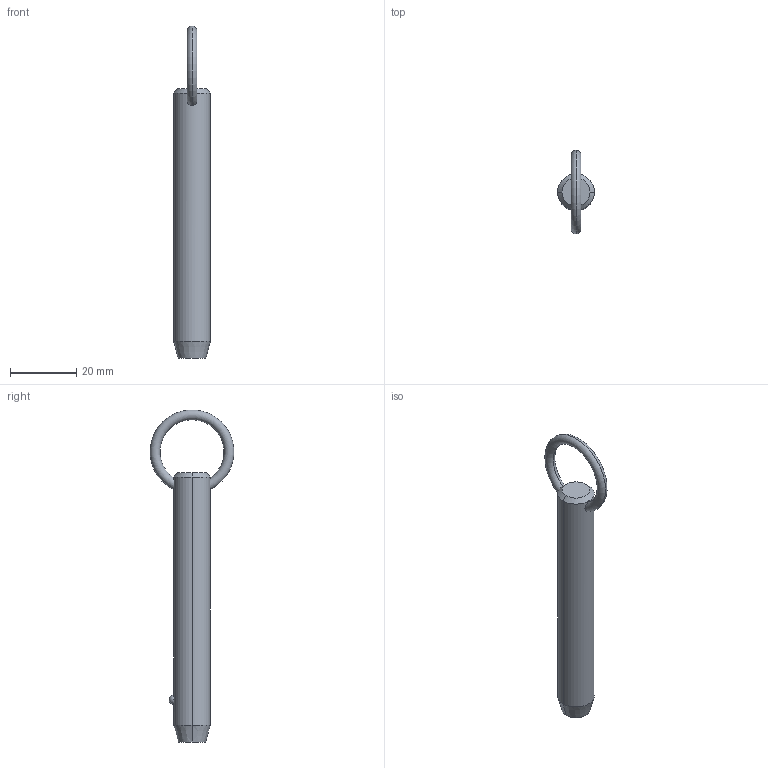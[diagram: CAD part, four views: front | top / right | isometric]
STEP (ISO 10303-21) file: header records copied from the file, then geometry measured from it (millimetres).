
FILE_DESCRIPTION (( 'STEP AP203' ), '1' );
FILE_NAME ('P1250.050-240.step', '2019-07-29T20:32:16', ( '' ), ( '' ), 'SwSTEP 2.0', 'SolidWorks 2017', '' );
FILE_SCHEMA (( 'CONFIG_CONTROL_DESIGN' ));
Length unit declared in the file: millimetre
Products named in the file (1): P1250.050-240
Bounding box: 11.1 x 25.32 x 100.55 mm (x, y, z)
Volume: 8179.1 mm3; surface area: 3498.2 mm2
Topology: 1 solids, 1 shells, 12 faces, 28 edges, 17 vertices
Faces by surface type: cone 4, torus 2, sphere 2, cylinder 2, plane 2
Entity records: 523 total; most frequent: CARTESIAN_POINT 190, DIRECTION 56, ORIENTED_EDGE 48, AXIS2_PLACEMENT_3D 25, EDGE_CURVE 24, VERTEX_POINT 15, EDGE_LOOP 15, FACE_OUTER_BOUND 12
